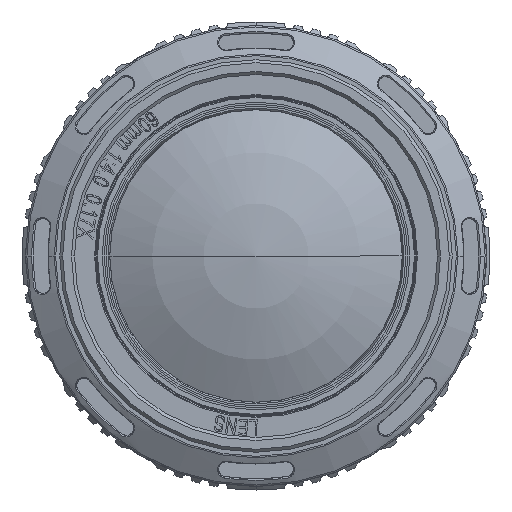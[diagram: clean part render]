
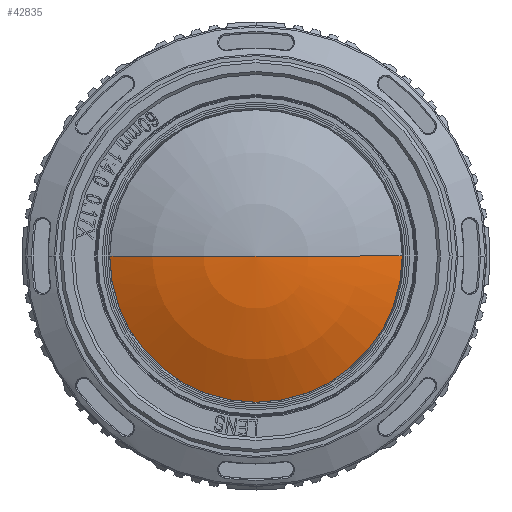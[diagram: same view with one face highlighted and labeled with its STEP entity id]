
A CAD part, left-side view. The second image highlights one B-rep face of the part: STEP entity #42835.
In plain terms, the highlighted spherical face has radius 33.286 mm.
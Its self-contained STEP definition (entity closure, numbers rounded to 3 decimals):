
#15477=CARTESIAN_POINT('',(13.572,0.,0.));
#15478=DIRECTION('',(0.,0.,1.));
#15479=DIRECTION('',(-1.,0.,0.));
#15480=AXIS2_PLACEMENT_3D('',#15477,#15478,#15479);
#15482=CARTESIAN_POINT('',(-15.885,0.,0.));
#15483=DIRECTION('',(1.,0.,0.));
#15484=DIRECTION('',(0.,-1.,0.));
#15485=AXIS2_PLACEMENT_3D('',#15482,#15483,#15484);
#15487=CARTESIAN_POINT('',(13.572,0.,0.));
#15488=DIRECTION('',(0.,0.,-1.));
#15489=DIRECTION('',(-1.,0.,0.));
#15490=AXIS2_PLACEMENT_3D('',#15487,#15488,#15489);
#21302=CARTESIAN_POINT('',(-15.885,-15.5,
0.));
#21303=VERTEX_POINT('',#21302);
#21304=CARTESIAN_POINT('',(-15.885,15.5,0.));
#21305=VERTEX_POINT('',#21304);
#21308=CARTESIAN_POINT('',(-19.714,0.,0.));
#21309=VERTEX_POINT('',#21308);
#42823=CARTESIAN_POINT('',(13.572,0.,0.));
#42824=DIRECTION('',(-1.,0.,0.));
#42825=DIRECTION('',(0.,1.,0.));
#42826=AXIS2_PLACEMENT_3D('',#42823,#42824,#42825);
#42827=SPHERICAL_SURFACE('',#42826,33.286);
#42829=ORIENTED_EDGE('',*,*,#42828,.F.);
#42831=ORIENTED_EDGE('',*,*,#42830,.T.);
#42832=ORIENTED_EDGE('',*,*,#42803,.T.);
#42833=EDGE_LOOP('',(#42829,#42831,#42832));
#42834=FACE_OUTER_BOUND('',#42833,.F.);
#15481=CIRCLE('',#15480,33.286);
#15486=CIRCLE('',#15485,15.5);
#15491=CIRCLE('',#15490,33.286);
#42803=EDGE_CURVE('',#21303,#21305,#15486,.T.);
#42828=EDGE_CURVE('',#21309,#21305,#15491,.T.);
#42830=EDGE_CURVE('',#21309,#21303,#15481,.T.);
#42835=ADVANCED_FACE('',(#42834),#42827,.T.);
